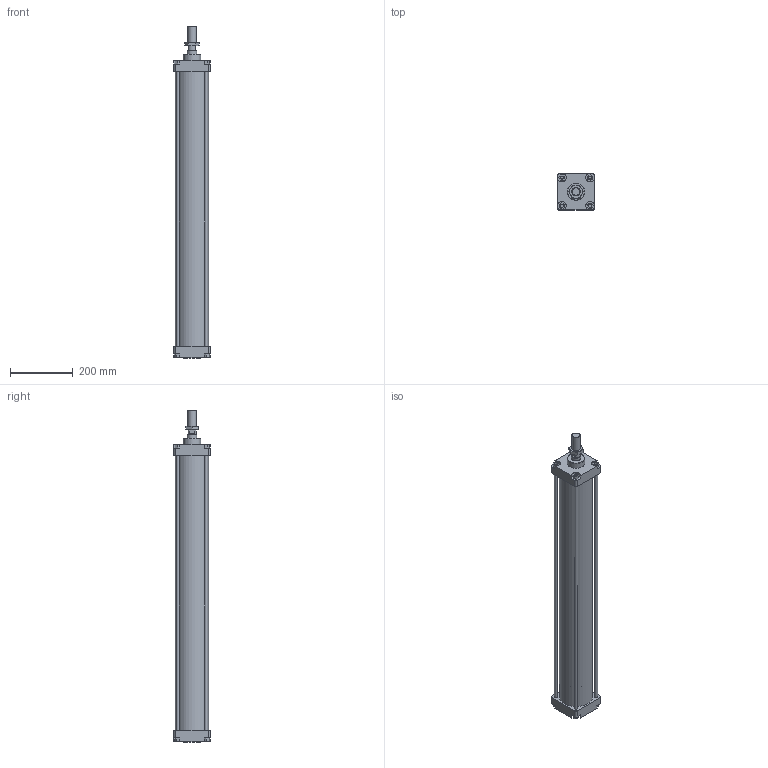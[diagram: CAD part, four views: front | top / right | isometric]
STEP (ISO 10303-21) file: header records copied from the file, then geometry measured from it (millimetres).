
FILE_DESCRIPTION(/* description */ (''),/* implementation_level */ '2;1');
FILE_NAME(/* name */ 'I:\Area Tecnica\Disegni\VARIE-3D\Componenti\CSP\Ø100\130#_100_####_###\1303_100_0800_01A.stp',/* time_stamp */ '2016-11-24T14:05:46+01:00',/* author */ ('Maniean1'),/* organization */ ('Pneumax S.p.A.'),/* preprocessor_version */ 'ST-DEVELOPER v15.2',/* originating_system */ 'Autodesk Inventor 2014',/* authorisation */ '');
FILE_SCHEMA (('AUTOMOTIVE_DESIGN { 1 0 10303 214 3 1 1 }'));
Length unit declared in the file: millimetre
Products named in the file (6): C_130#_100_0800; Testata anteriore_100; Testata posteriore_100; S_1303_100_0800_01A; 1300_100_18F; 1303_100_0800_01A
Bounding box: 115 x 115 x 1057 mm (x, y, z)
Volume: 3228277.4 mm3; surface area: 922568.5 mm2
Topology: 9 solids, 9 shells, 162 faces, 380 edges, 249 vertices
Faces by surface type: plane 105, cylinder 42, cone 15
Full cylindrical faces by diameter (mm): 10 x12, 19 x2, 21.8 x1, 24.835 x1, 27 x1, 28 x1, 30 x3, 55 x2, 100 x2, 106 x1
Entity records: 4530 total; most frequent: CARTESIAN_POINT 785, DIRECTION 764, ORIENTED_EDGE 672, EDGE_CURVE 336, AXIS2_PLACEMENT_3D 271, VERTEX_POINT 244, EDGE_LOOP 236, LINE 222
